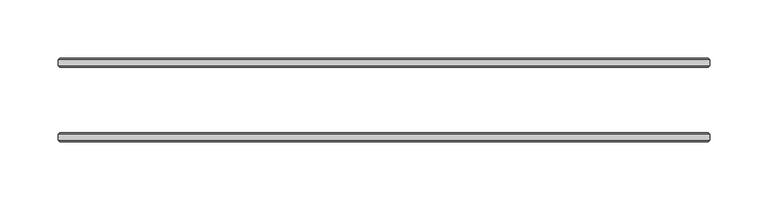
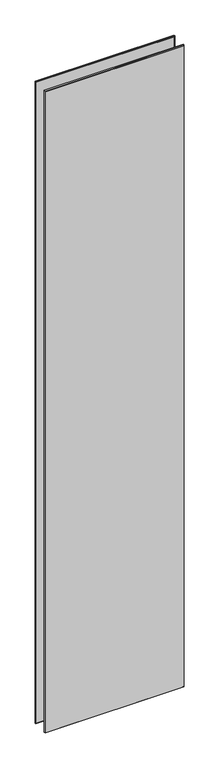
"""IFC4 building model written with IfcOpenShell, lengths in millimetres: plate geometry, 3-AMG-2-Панель двойной витраж 8, 10 : Смещение 32 Толщина 8mm."""

from ifc_helpers import new_model, si_unit, origin, place, context, project, spatial, faceted_brep, source, transform, mapped, element, save


def plate_83797a7f(model_context):
    return source(origin(), model_context, "Body", "Brep", [
        faceted_brep([(280.0, -34.4961653, 2722.8), (280.0, -29.5038347, 2722.8), (-280.0, -29.5038347, 2722.8), (-280.0, -34.4961653, 2722.8), (280.0, -29.5038347, -7.0), (280.0, -34.4961653, -7.0), (-280.0, -34.4961653, -7.0), (-280.0, -29.5038347, -7.0), (-278.4961653, -28.0, 2721.2961653), (278.4961653, -28.0, 2721.2961653), (278.4961653, -28.0, -5.5039422), (-278.4961653, -28.0, -5.5039422), (278.4961653, -36.0, 2721.2961653), (-278.4961653, -36.0, 2721.2961653), (-278.4961653, -36.0, -5.4961653), (278.4961653, -36.0, -5.4961653)], [[[0, 1, 2, 3]], [[4, 5, 6, 7]], [[8, 9, 10, 11]], [[3, 2, 7, 6]], [[12, 13, 14, 15]], [[1, 0, 5, 4]], [[1, 4, 10, 9]], [[5, 0, 12, 15]], [[0, 3, 13, 12]], [[2, 1, 9, 8]], [[7, 2, 8, 11]], [[3, 6, 14, 13]], [[6, 5, 15, 14]], [[4, 7, 11, 10]]]),
        faceted_brep([(280.0, 29.5038347, 2722.8), (280.0, 34.4961653, 2722.8), (-280.0, 34.4961653, 2722.8), (-280.0, 29.5038347, 2722.8), (280.0, 34.4961653, -7.0), (280.0, 29.5038347, -7.0), (-280.0, 29.5038347, -7.0), (-280.0, 34.4961653, -7.0), (-278.4961653, 36.0, 2721.2961653), (278.4961653, 36.0, 2721.2961653), (278.4961653, 36.0, -5.5039422), (-278.4961653, 36.0, -5.5039422), (278.4961653, 28.0, 2721.2961653), (-278.4961653, 28.0, 2721.2961653), (-278.4961653, 28.0, -5.4961653), (278.4961653, 28.0, -5.4961653)], [[[0, 1, 2, 3]], [[4, 5, 6, 7]], [[8, 9, 10, 11]], [[3, 2, 7, 6]], [[12, 13, 14, 15]], [[1, 0, 5, 4]], [[1, 4, 10, 9]], [[5, 0, 12, 15]], [[7, 2, 8, 11]], [[3, 6, 14, 13]], [[0, 3, 13, 12]], [[2, 1, 9, 8]], [[6, 5, 15, 14]], [[4, 7, 11, 10]]]),
    ])


if __name__ == "__main__":
    model = new_model("IFC4")
    model_context = context("Model", 3, world=origin())
    ifc_project = project(units=[si_unit("LENGTHUNIT", "METRE", prefix="MILLI")], contexts=[model_context])
    site = spatial("IfcSite", under=ifc_project)
    building = spatial("IfcBuilding", under=site)
    placement = place(None, origin())
    plate_shape = plate_83797a7f(model_context)
    element("IfcPlate", 1, ObjectType="3-AMG-2-Панель двойной витраж 8, 10 : Смещение 32 Толщина 8mm", at=placement, inside=building, context=model_context, shape_type="MappedRepresentation", body=[
        mapped(plate_shape, transform((0.0, 0.0, 0.0), x_axis=(1.0, 0.0, 0.0), y_axis=(0.0, 1.0, 0.0), z_axis=(0.0, 0.0, 1.0))),
    ])
    save(model, "model.ifc")
